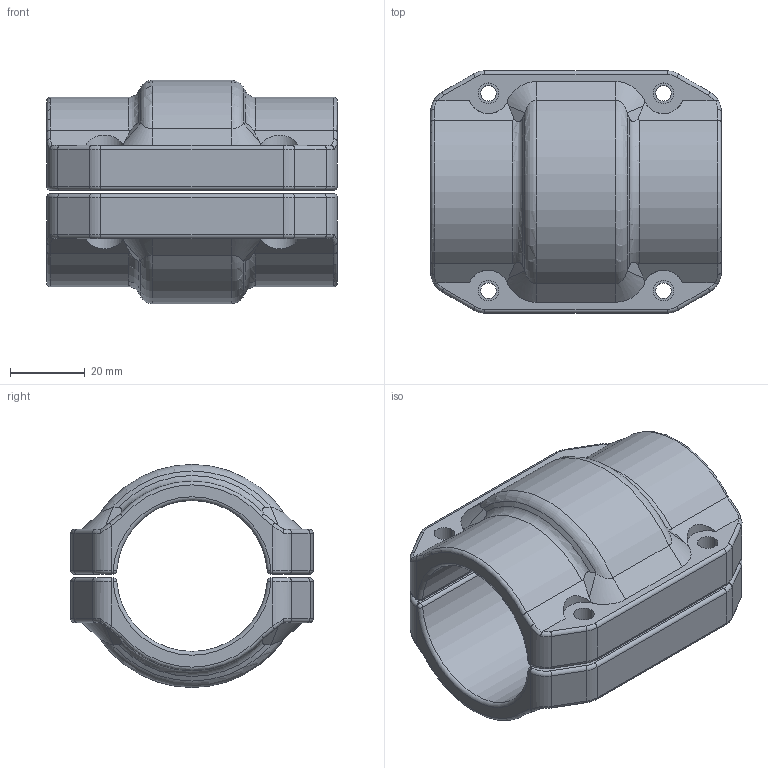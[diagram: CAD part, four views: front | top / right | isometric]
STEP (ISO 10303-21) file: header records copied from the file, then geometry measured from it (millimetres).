
FILE_DESCRIPTION((''),'2;1');
FILE_NAME('20154002_ASM_4_ASM','2017-05-15T',('Administrator'),(''),'PRO/ENGINEER BY PARAMETRIC TECHNOLOGY CORPORATION, 2009360','PRO/ENGINEER BY PARAMETRIC TECHNOLOGY CORPORATION, 2009360','');
FILE_SCHEMA(('AUTOMOTIVE_DESIGN_CC2 { 1 2 10303 214 -1 1 5 2 }'));
Length unit declared in the file: millimetre
Products named in the file (3): 201540020001_1; 201540020000_4; 20154002_ASM_4_ASM
Assembly tree (2 placements, depth 2):
  20154002_ASM_4_ASM
    201540020001_1
    201540020000_4
Bounding box: 78 x 65 x 59.9 mm (x, y, z)
Volume: 97796.8 mm3; surface area: 30937 mm2
Topology: 2 solids, 2 shells, 212 faces, 565 edges, 349 vertices
Faces by surface type: cylinder 92, torus 48, plane 36, bspline 24, sphere 8, cone 4
Entity records: 9623 total; most frequent: CARTESIAN_POINT 2712, ORIENTED_EDGE 1114, DIRECTION 1084, PRESENTATION_STYLE_ASSIGNMENT 559, STYLED_ITEM 559, CURVE_STYLE 557, EDGE_CURVE 557, AXIS2_PLACEMENT_3D 454
